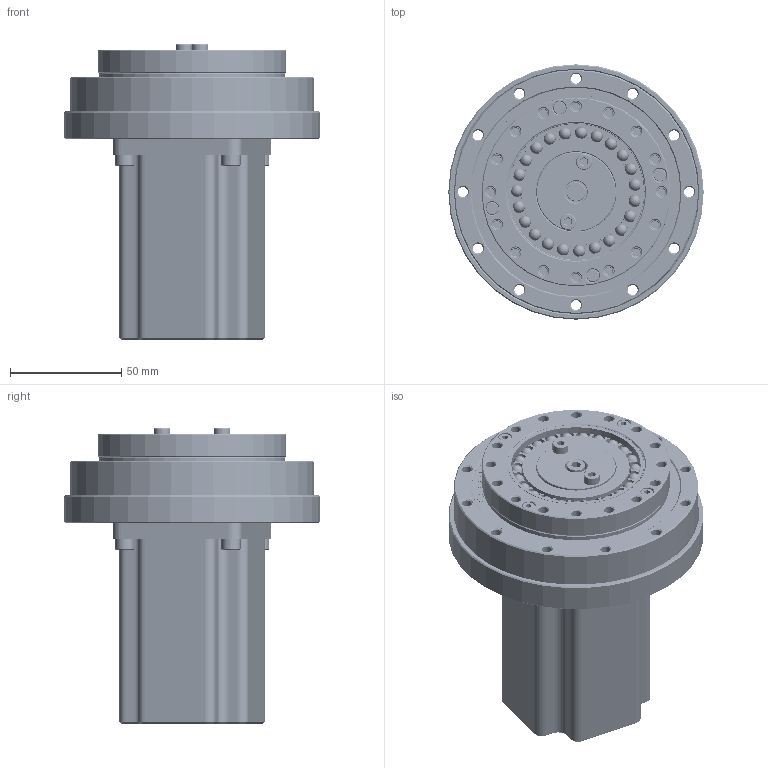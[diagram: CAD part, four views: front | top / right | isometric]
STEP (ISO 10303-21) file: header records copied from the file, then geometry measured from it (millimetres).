
FILE_DESCRIPTION(/* description */ (''),/* implementation_level */ '2;1');
FILE_NAME(/* name */ 'XBF25配60伺服电机安装方案.step',/* time_stamp */ '2023-01-03T12:50:53+08:00',/* author */ (''),/* organization */ (''),/* preprocessor_version */ 'ST-DEVELOPER v16',/* originating_system */ 'SIEMENS PLM Software NX 10.0',/* authorisation */ '');
FILE_SCHEMA (('AUTOMOTIVE_DESIGN { 1 0 10303 214 3 1 1 1 }'));
Products named in the file (1): 20
Bounding box: 115 x 115 x 133.47 mm (x, y, z)
Volume: 502860.6 mm3; surface area: 174744.3 mm2
Topology: 53 solids, 55 shells, 1331 faces, 3301 edges, 2126 vertices
Faces by surface type: plane 494, cylinder 341, cone 297, bspline 124, extrusion 34, sphere 23, torus 18
Full cylindrical faces by diameter (mm): 2.5 x4, 3.5 x8, 4 x22, 4.5 x54, 4.7 x1, 5 x12, 5.5 x1, 5.6 x8, 6 x12, 7.22 x2, 8.5 x1, 8.72 x4, 10 x1, 14 x2, 22 x1, 35.8 x1, 36 x1, 43.5 x1, 45.212 x1, 46.5 x1, 47.3 x1, 48.412 x2, 49.5 x1, 50 x2, 52.8 x1, 53 x1, 56.5 x1, 57.6 x1, 58.341 x2, 61.341 x2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
Entity records: 206185 total; most frequent: CARTESIAN_POINT 177644, ORIENTED_EDGE 5178, DIRECTION 5099, EDGE_CURVE 2589, AXIS2_PLACEMENT_3D 2104, EDGE_LOOP 1955, VERTEX_POINT 1916, ADVANCED_FACE 1294
